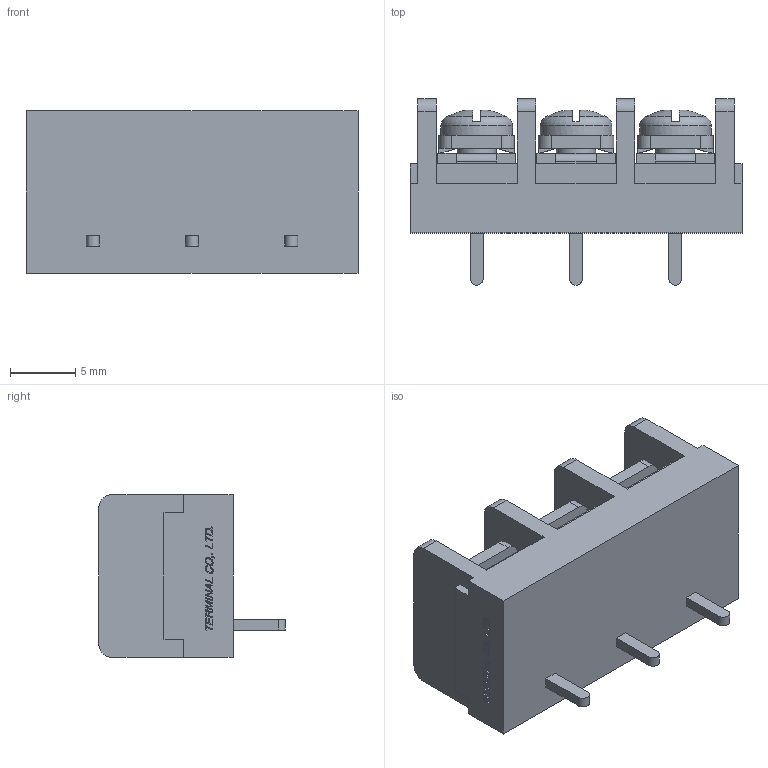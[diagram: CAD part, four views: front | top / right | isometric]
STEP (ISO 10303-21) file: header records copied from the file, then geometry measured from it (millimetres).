
FILE_DESCRIPTION(/* description */ ('Alibre Inc.'),/* implementation_level */ '2;1');
FILE_NAME(/* name */ 'export0',/* time_stamp */ '2015-10-26T17:22:07+09:00',/* author */ (''),/* organization */ (''),/* preprocessor_version */ 'ST-DEVELOPER v14',/* originating_system */ 'Alibre',/* authorisation */ '');
FILE_SCHEMA (('CONFIG_CONTROL_DESIGN'));
Length unit declared in the file: centimetre
Products named in the file (1): ID_1
Bounding box: 25.48 x 14.3 x 12.5 mm (x, y, z)
Volume: 2314.4 mm3; surface area: 2198 mm2
Topology: 1 solids, 1 shells, 680 faces, 1851 edges, 1225 vertices
Faces by surface type: plane 514, bspline 104, cylinder 38, cone 12, torus 6, sphere 6
Full cylindrical faces by diameter (mm): 3 x3, 5.5 x3
Entity records: 20600 total; most frequent: CARTESIAN_POINT 4862, ORIENTED_EDGE 3654, DIRECTION 2303, EDGE_CURVE 1827, VECTOR 1360, LINE 1360, VERTEX_POINT 1213, EDGE_LOOP 744
